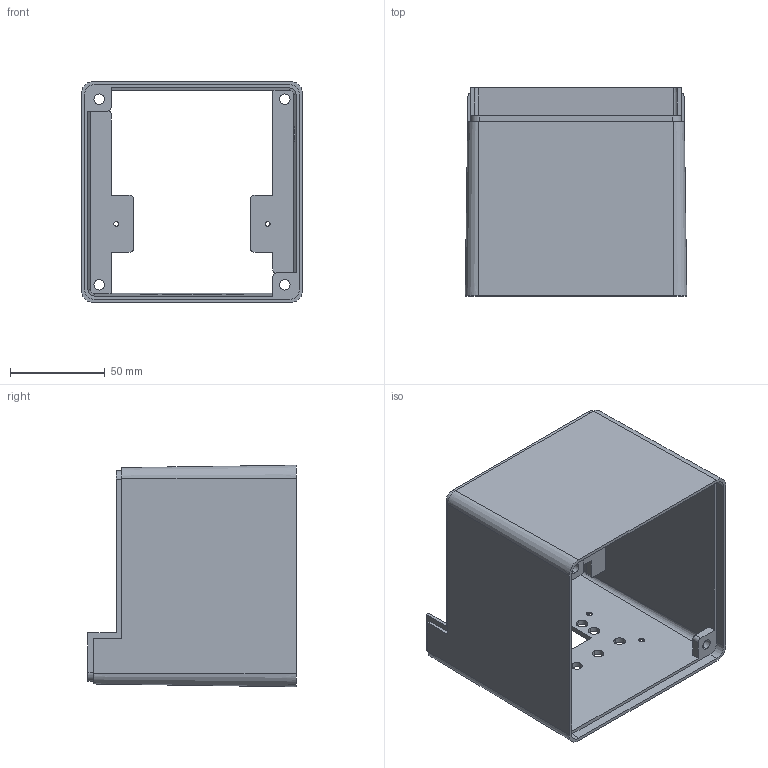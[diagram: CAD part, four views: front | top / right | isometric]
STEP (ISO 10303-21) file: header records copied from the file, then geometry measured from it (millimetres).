
FILE_DESCRIPTION (( 'STEP AP214' ), '1' );
FILE_NAME ('5201000ºÐÌå.STEP', '2024-02-27T04:41:01', ( 'DELL' ), ( '' ), 'SwSTEP 2.0', 'SolidWorks 2021', '' );
FILE_SCHEMA (( 'AUTOMOTIVE_DESIGN' ));
Length unit declared in the file: millimetre
Products named in the file (1): 5201000碟极
Bounding box: 117 x 110 x 117 mm (x, y, z)
Volume: 152270.2 mm3; surface area: 97640.6 mm2
Topology: 1 solids, 1 shells, 133 faces, 382 edges, 252 vertices
Faces by surface type: plane 57, cylinder 54, cone 22
Entity records: 4514 total; most frequent: DIRECTION 794, CARTESIAN_POINT 768, ORIENTED_EDGE 764, EDGE_CURVE 382, AXIS2_PLACEMENT_3D 278, VERTEX_POINT 252, LINE 238, VECTOR 238
